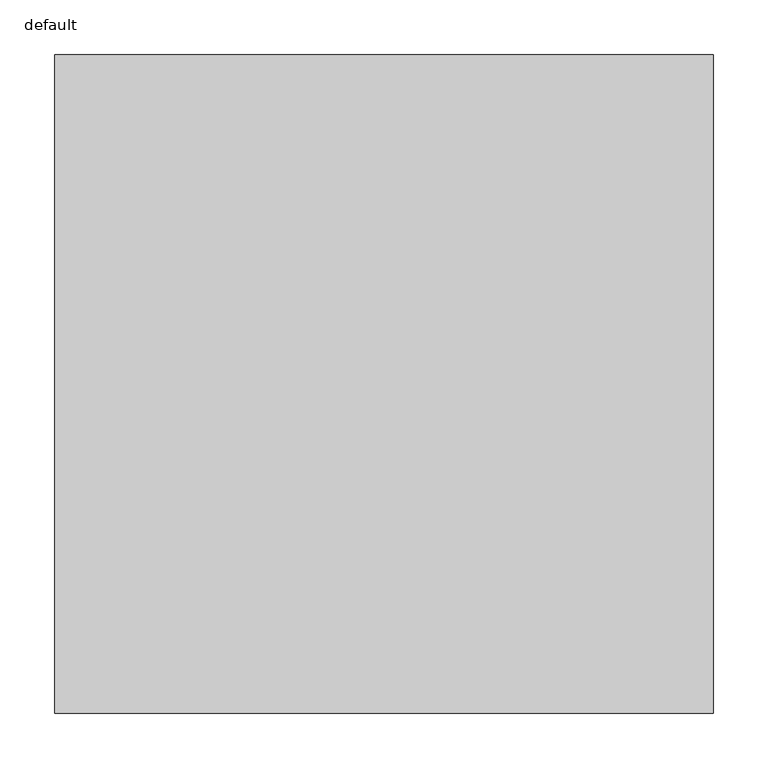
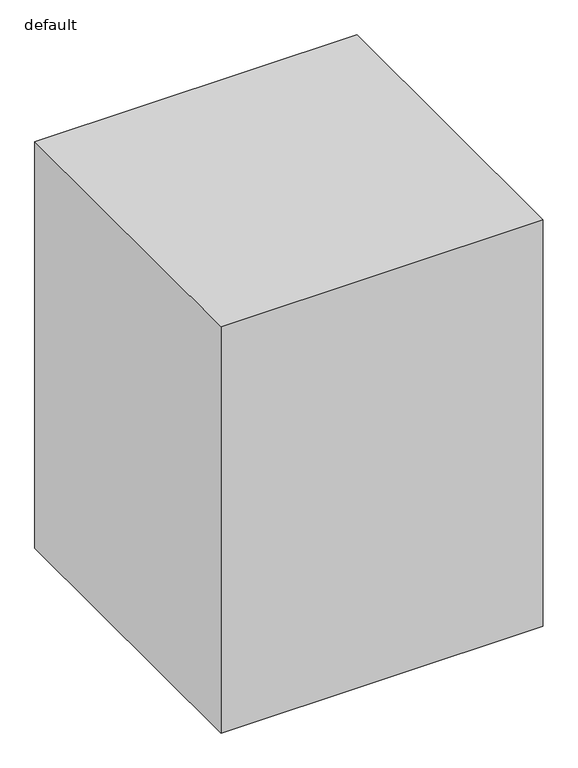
"""IFC4 building model written with IfcOpenShell, lengths in millimetres: furniture geometry, Fu_кухонный напольный модуль_LEG : default."""

from ifc_helpers import new_model, si_unit, origin, origin_with_axes, place, context, project, spatial, polyline, outline, extrude, source, transform, mapped, element, save


def default_7369cba9(model_context):
    return source(origin(), model_context, "Body", "SweptSolid", [
        extrude(outline(polyline([(600.0, 0.0), (600.0, -600.0), (0.0, -600.0), (0.0, 0.0), (600.0, 0.0)])), origin_with_axes(), (0.0, 0.0, 1.0), 800.0),
    ])


if __name__ == "__main__":
    model = new_model("IFC4")
    model_context = context("Model", 3, world=origin())
    ifc_project = project(units=[si_unit("LENGTHUNIT", "METRE", prefix="MILLI")], contexts=[model_context])
    site = spatial("IfcSite", under=ifc_project)
    building = spatial("IfcBuilding", under=site)
    placement = place(None, origin())
    default_shape = default_7369cba9(model_context)
    element("IfcFurniture", 1, ObjectType="Fu_кухонный напольный модуль_LEG : default", at=placement, inside=building, context=model_context, shape_type="MappedRepresentation", body=[
        mapped(default_shape, transform((0.0, 0.0, 0.0), x_axis=(1.0, 0.0, 0.0), y_axis=(0.0, 1.0, 0.0), z_axis=(0.0, 0.0, 1.0))),
    ])
    save(model, "model.ifc")
